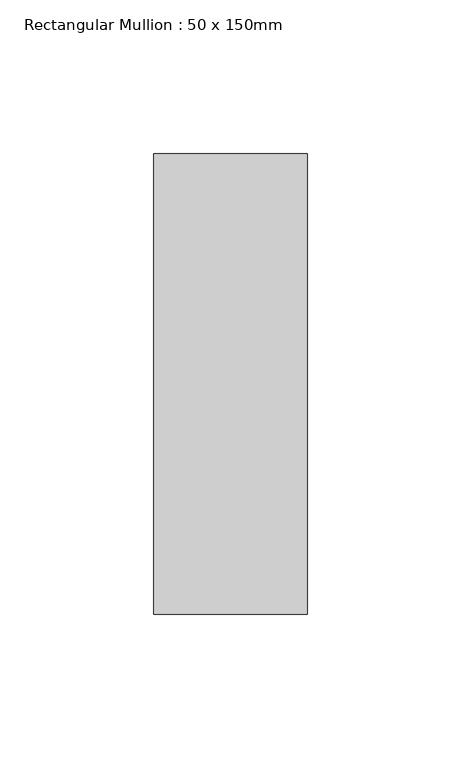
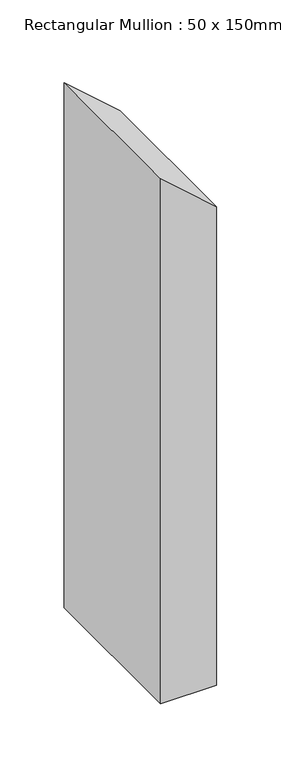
"""IFC4 building model written with IfcOpenShell, lengths in millimetres: member geometry, Rectangular Mullion : 50 x 150mm."""

from ifc_helpers import new_model, si_unit, frame, origin, place, context, project, spatial, polyline, outline, extrude, source, transform, mapped, element, save


def rectangular_mullion_50_x_150mm_afd86412(model_context):
    return source(origin(), model_context, "Body", "SweptSolid", [
        extrude(outline(polyline([(-88.415239, 25.0), (-44.5773716, -25.0), (-541.9596516, -25.0), (-541.9596516, 25.0), (-88.415239, 25.0)])), frame((0.0, -75.0, 0.0), z_axis=(0.0, 1.0, 0.0), x_axis=(0.0, 0.0, 1.0)), (0.0, 0.0, 1.0), 150.0),
    ])


if __name__ == "__main__":
    model = new_model("IFC4")
    model_context = context("Model", 3, world=origin())
    ifc_project = project(units=[si_unit("LENGTHUNIT", "METRE", prefix="MILLI")], contexts=[model_context])
    site = spatial("IfcSite", under=ifc_project)
    building = spatial("IfcBuilding", under=site)
    placement = place(None, origin())
    rectangular_mullion_50_x_150mm_shape = rectangular_mullion_50_x_150mm_afd86412(model_context)
    element("IfcMember", 1, ObjectType="Rectangular Mullion : 50 x 150mm", at=placement, inside=building, context=model_context, shape_type="MappedRepresentation", body=[
        mapped(rectangular_mullion_50_x_150mm_shape, transform((0.0, 0.0, 0.0), x_axis=(1.0, 0.0, 0.0), y_axis=(0.0, 1.0, 0.0), z_axis=(0.0, 0.0, 1.0))),
    ])
    save(model, "model.ifc")
